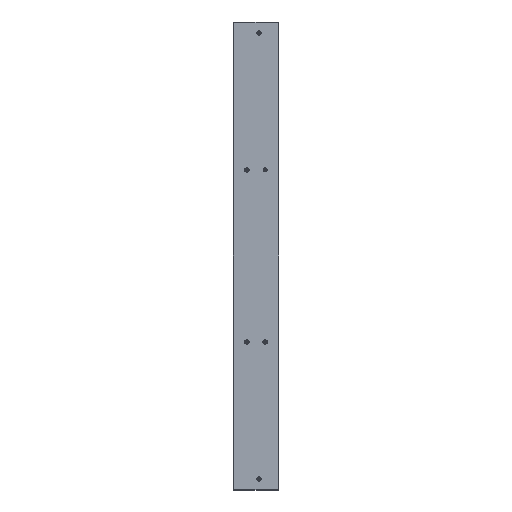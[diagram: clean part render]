
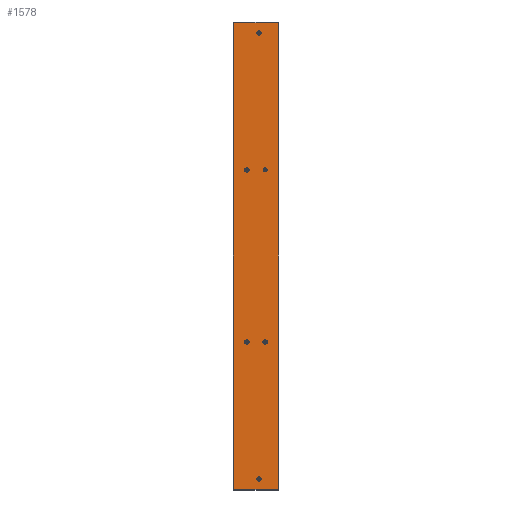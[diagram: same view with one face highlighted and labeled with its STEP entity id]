
A CAD part, left-side view. The second image highlights one B-rep face of the part: STEP entity #1578.
In plain terms, the highlighted planar face has unit normal (-1, 0, 0).
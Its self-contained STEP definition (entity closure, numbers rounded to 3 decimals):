
#1578=ADVANCED_FACE('',(#2120,#2122,#2124,#2126,#2128,#2130,#2132),#2134,.F.);
#2120=FACE_BOUND('',#2121,.T.);
#2121=EDGE_LOOP('',(#6629,#6630,#6631,#6632));
#2122=FACE_BOUND('',#2123,.T.);
#2123=EDGE_LOOP('',(#6633));
#2124=FACE_BOUND('',#2125,.T.);
#2125=EDGE_LOOP('',(#6634));
#2126=FACE_BOUND('',#2127,.T.);
#2127=EDGE_LOOP('',(#6635));
#2128=FACE_BOUND('',#2129,.T.);
#2129=EDGE_LOOP('',(#6636));
#2130=FACE_BOUND('',#2131,.T.);
#2131=EDGE_LOOP('',(#6637));
#2132=FACE_BOUND('',#2133,.T.);
#2133=EDGE_LOOP('',(#6638));
#2134=PLANE('',#2135);
#2135=AXIS2_PLACEMENT_3D('',#2136,#2137,#2138);
#2136=CARTESIAN_POINT('',(0.,0.,0.));
#2137=DIRECTION('',(1.,0.,0.));
#2138=DIRECTION('',(0.,1.,0.));
#6629=ORIENTED_EDGE('',*,*,#7813,.T.);
#6630=ORIENTED_EDGE('',*,*,#7814,.T.);
#6631=ORIENTED_EDGE('',*,*,#7815,.T.);
#6632=ORIENTED_EDGE('',*,*,#7816,.T.);
#6633=ORIENTED_EDGE('',*,*,#7817,.T.);
#6634=ORIENTED_EDGE('',*,*,#7818,.T.);
#6635=ORIENTED_EDGE('',*,*,#7819,.T.);
#6636=ORIENTED_EDGE('',*,*,#7820,.T.);
#6637=ORIENTED_EDGE('',*,*,#7821,.T.);
#6638=ORIENTED_EDGE('',*,*,#7822,.T.);
#7813=EDGE_CURVE('',#8467,#8468,#8469,.T.);
#7814=EDGE_CURVE('',#8468,#8470,#8471,.T.);
#7815=EDGE_CURVE('',#8470,#8472,#8473,.T.);
#7816=EDGE_CURVE('',#8472,#8467,#8474,.T.);
#7817=EDGE_CURVE('',#8475,#8475,#8476,.T.);
#7818=EDGE_CURVE('',#8477,#8477,#8478,.T.);
#7819=EDGE_CURVE('',#8479,#8479,#8480,.T.);
#7820=EDGE_CURVE('',#8481,#8481,#8482,.T.);
#7821=EDGE_CURVE('',#8483,#8483,#8484,.T.);
#7822=EDGE_CURVE('',#8485,#8485,#8486,.T.);
#8467=VERTEX_POINT('',#9635);
#8468=VERTEX_POINT('',#9636);
#8469=LINE('',#9637,#9638);
#8470=VERTEX_POINT('',#9640);
#8471=LINE('',#9641,#9642);
#8472=VERTEX_POINT('',#9644);
#8473=LINE('',#9645,#9646);
#8474=LINE('',#9648,#9649);
#8475=VERTEX_POINT('',#9651);
#8476=CIRCLE('',#9652,9.25);
#8477=VERTEX_POINT('',#9656);
#8478=CIRCLE('',#9657,9.25);
#8479=VERTEX_POINT('',#9661);
#8480=CIRCLE('',#9662,9.25);
#8481=VERTEX_POINT('',#9666);
#8482=CIRCLE('',#9667,8.727);
#8483=VERTEX_POINT('',#9671);
#8484=CIRCLE('',#9672,9.25);
#8485=VERTEX_POINT('',#9676);
#8486=CIRCLE('',#9677,9.25);
#9635=CARTESIAN_POINT('',(0.,92.7,982.7));
#9636=CARTESIAN_POINT('',(0.,92.7,-982.7));
#9637=CARTESIAN_POINT('',(0.,92.7,982.7));
#9638=VECTOR('',#9639,1.);
#9639=DIRECTION('',(0.,0.,-1.));
#9640=CARTESIAN_POINT('',(0.,-92.7,-982.7));
#9641=CARTESIAN_POINT('',(0.,92.7,-982.7));
#9642=VECTOR('',#9643,1.);
#9643=DIRECTION('',(0.,-1.,0.));
#9644=CARTESIAN_POINT('',(0.,-92.7,982.7));
#9645=CARTESIAN_POINT('',(0.,-92.7,-982.7));
#9646=VECTOR('',#9647,1.);
#9647=DIRECTION('',(0.,0.,1.));
#9648=CARTESIAN_POINT('',(0.,-92.7,982.7));
#9649=VECTOR('',#9650,1.);
#9650=DIRECTION('',(0.,1.,0.));
#9651=CARTESIAN_POINT('',(0.,29.25,-362.5));
#9652=AXIS2_PLACEMENT_3D('',#9653,#9654,#9655);
#9653=CARTESIAN_POINT('',(0.,38.5,-362.5));
#9654=DIRECTION('',(1.,0.,0.));
#9655=DIRECTION('',(0.,-1.,0.));
#9656=CARTESIAN_POINT('',(0.,-47.75,-362.5));
#9657=AXIS2_PLACEMENT_3D('',#9658,#9659,#9660);
#9658=CARTESIAN_POINT('',(0.,-38.5,-362.5));
#9659=DIRECTION('',(1.,0.,0.));
#9660=DIRECTION('',(0.,-1.,0.));
#9661=CARTESIAN_POINT('',(0.,29.25,362.5));
#9662=AXIS2_PLACEMENT_3D('',#9663,#9664,#9665);
#9663=CARTESIAN_POINT('',(0.,38.5,362.5));
#9664=DIRECTION('',(1.,0.,0.));
#9665=DIRECTION('',(0.,-1.,0.));
#9666=CARTESIAN_POINT('',(0.,-47.227,362.5));
#9667=AXIS2_PLACEMENT_3D('',#9668,#9669,#9670);
#9668=CARTESIAN_POINT('',(0.,-38.5,362.5));
#9669=DIRECTION('',(1.,0.,0.));
#9670=DIRECTION('',(0.,-1.,0.));
#9671=CARTESIAN_POINT('',(0.,-3.25,939.));
#9672=AXIS2_PLACEMENT_3D('',#9673,#9674,#9675);
#9673=CARTESIAN_POINT('',(0.,-12.5,939.));
#9674=DIRECTION('',(1.,0.,0.));
#9675=DIRECTION('',(0.,1.,0.));
#9676=CARTESIAN_POINT('',(0.,-3.25,-939.));
#9677=AXIS2_PLACEMENT_3D('',#9678,#9679,#9680);
#9678=CARTESIAN_POINT('',(0.,-12.5,-939.));
#9679=DIRECTION('',(1.,0.,0.));
#9680=DIRECTION('',(0.,1.,0.));
